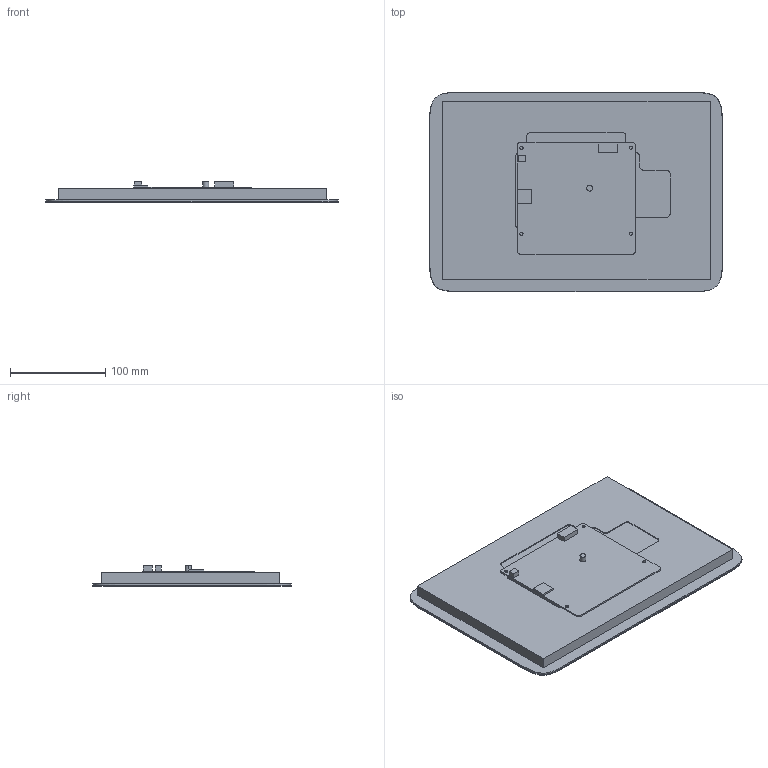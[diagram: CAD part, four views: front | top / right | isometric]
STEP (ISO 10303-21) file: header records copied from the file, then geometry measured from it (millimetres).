
FILE_DESCRIPTION((''),'2;1');
FILE_NAME('DMG12800C121-02WTC','2025-03-04T',('Administrator'),(''),'PRO/ENGINEER BY PARAMETRIC TECHNOLOGY CORPORATION, 2014320','PRO/ENGINEER BY PARAMETRIC TECHNOLOGY CORPORATION, 2014320','');
FILE_SCHEMA(('AUTOMOTIVE_DESIGN_CC2 { 1 2 10303 214 -1 1 5 2 }'));
Length unit declared in the file: millimetre
Products named in the file (1): DMG12800C121-02WTC
Bounding box: 307.23 x 208.93 x 21.6 mm (x, y, z)
Volume: 796953.8 mm3; surface area: 143308.6 mm2
Topology: 1 solids, 1 shells, 88 faces, 222 edges, 148 vertices
Faces by surface type: plane 58, cylinder 22, extrusion 8
Entity records: 3063 total; most frequent: CARTESIAN_POINT 860, ORIENTED_EDGE 444, DIRECTION 418, EDGE_CURVE 222, VECTOR 170, LINE 162, VERTEX_POINT 148, AXIS2_PLACEMENT_3D 124
